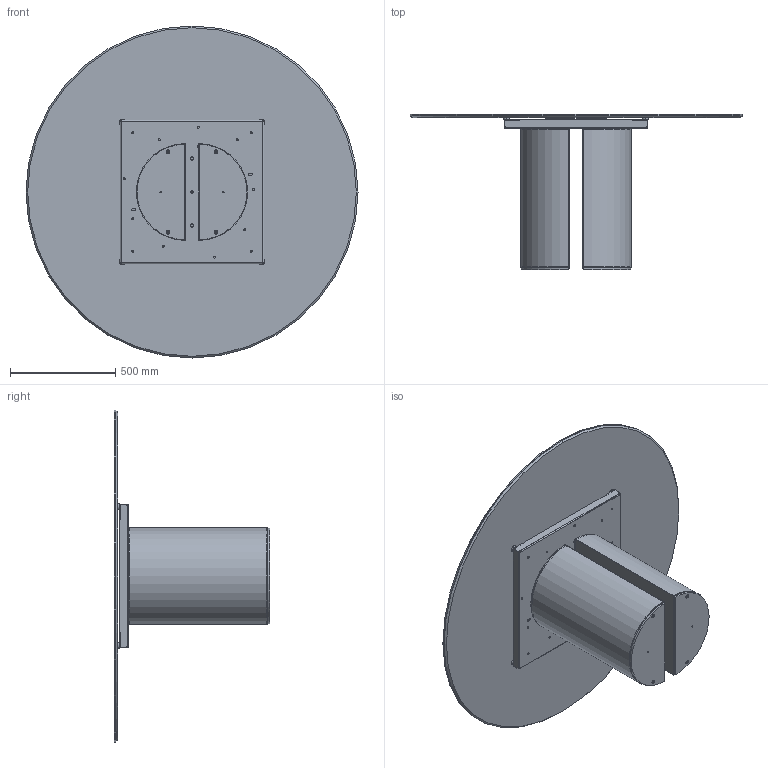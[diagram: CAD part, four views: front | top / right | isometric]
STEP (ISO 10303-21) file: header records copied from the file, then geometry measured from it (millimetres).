
FILE_DESCRIPTION (( 'STEP AP203' ), '1' );
FILE_NAME ('DR08C.STEP', '2024-08-06T13:00:42', ( '' ), ( '' ), 'SwSTEP 2.0', 'SolidWorks 2022', '' );
FILE_SCHEMA (( 'CONFIG_CONTROL_DESIGN' ));
Length unit declared in the file: millimetre
Products named in the file (12): TTAV0801-02-TELAIO UNIVERSALE TONDO; PLA000000ZOC-01-PLAI ZOCCOLO DELLA BASE; COLLO TELAIO UNIVERSALE TTAV0801 CON FERRAMENTA_MTG TOP CRISTALLO VERNICIATO-CERAMICA; TTAV0801 TELAIO UNIVERSALE TONDO-PIASTRINA; K1XCMXX-00-Piani Rotondi in ceramica_D.1580; DR08C; M8xXXmm_hex_M8X20mm; Assieme Basamento PLAI_Basamento per tavoli; PLA000000BAS-00-PLAI BASE GREZZA; M8xXXmm_hex_M8X60mm; 434070-00-PIEDINO TPV GOMMA NERO D. 30x8max18_filo estetico; TTAV0801-02-TELAIO UNIVERSALE TONDO-VASSOIO
Assembly tree (18 placements, depth 4):
  DR08C
    Assieme Basamento PLAI_Basamento per tavoli  x2
      PLA000000BAS-00-PLAI BASE GREZZA
      PLA000000ZOC-01-PLAI ZOCCOLO DELLA BASE
      M8xXXmm_hex_M8X60mm
      M8xXXmm_hex_M8X20mm
    COLLO TELAIO UNIVERSALE TTAV0801 CON FERRAMENTA_MTG TOP CRISTALLO VERNICIATO-CERAMICA
      TTAV0801-02-TELAIO UNIVERSALE TONDO
        TTAV0801-02-TELAIO UNIVERSALE TONDO-VASSOIO
        TTAV0801 TELAIO UNIVERSALE TONDO-PIASTRINA  x4
      434070-00-PIEDINO TPV GOMMA NERO D. 30x8max18_filo estetico  x4
    K1XCMXX-00-Piani Rotondi in ceramica_D.1580
Bounding box: 1580 x 740 x 1580 mm (x, y, z)
Volume: 39077826.2 mm3; surface area: 12951363.7 mm2
Topology: 29 solids, 29 shells, 712 faces, 1788 edges, 1130 vertices
Faces by surface type: plane 360, cylinder 290, cone 38, torus 24
Entity records: 14991 total; most frequent: DIRECTION 2455, CARTESIAN_POINT 2310, ORIENTED_EDGE 2258, EDGE_CURVE 1129, AXIS2_PLACEMENT_3D 865, VECTOR 725, LINE 725, VERTEX_POINT 720
